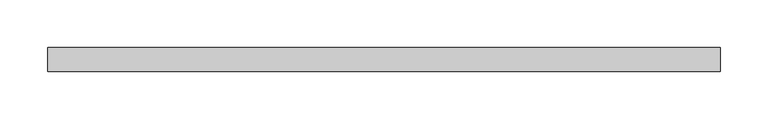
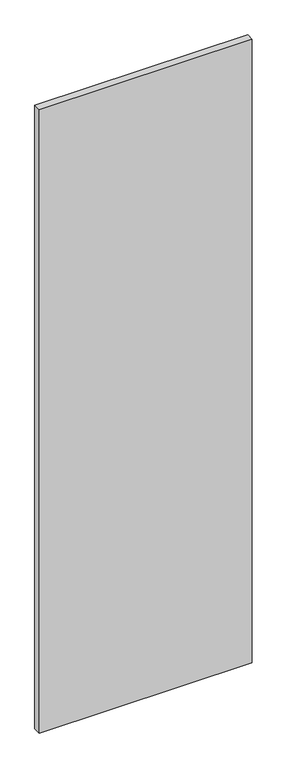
"""IFC4 building model written with IfcOpenShell, lengths in millimetres: plate geometry, 系统嵌板 : 玻璃."""

from ifc_helpers import new_model, si_unit, origin, origin_with_axes, place, context, project, spatial, polyline, outline, extrude, source, transform, mapped, element, save


def plate_d42255f7(model_context):
    return source(origin(), model_context, "Body", "SweptSolid", [
        extrude(outline(polyline([(350.9482126, -12.5), (-350.9482126, -12.5), (-350.9482126, 12.5), (350.9482126, 12.5), (350.9482126, -12.5)])), origin_with_axes(), (0.0, 0.0, 1.0), 2170.0),
    ])


if __name__ == "__main__":
    model = new_model("IFC4")
    model_context = context("Model", 3, world=origin())
    ifc_project = project(units=[si_unit("LENGTHUNIT", "METRE", prefix="MILLI")], contexts=[model_context])
    site = spatial("IfcSite", under=ifc_project)
    building = spatial("IfcBuilding", under=site)
    placement = place(None, origin())
    plate_shape = plate_d42255f7(model_context)
    element("IfcPlate", 1, ObjectType="系统嵌板 : 玻璃", at=placement, inside=building, context=model_context, shape_type="MappedRepresentation", body=[
        mapped(plate_shape, transform((0.0, 0.0, 0.0), x_axis=(1.0, 0.0, 0.0), y_axis=(0.0, 1.0, 0.0), z_axis=(0.0, 0.0, 1.0))),
    ])
    save(model, "model.ifc")
